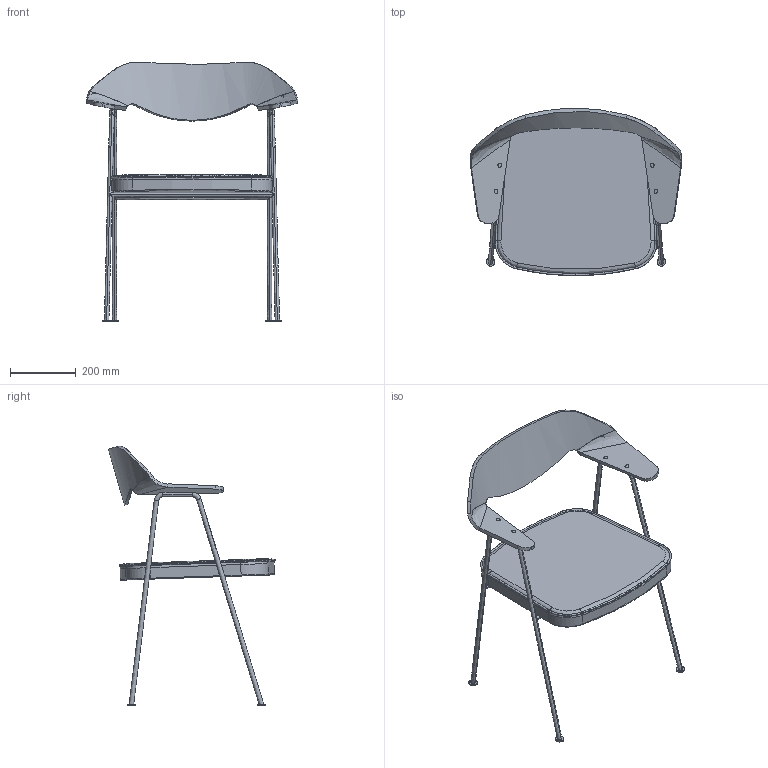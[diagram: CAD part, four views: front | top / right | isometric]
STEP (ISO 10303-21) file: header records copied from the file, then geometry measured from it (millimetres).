
FILE_DESCRIPTION(/* description */ (''),/* implementation_level */ '2;1');
FILE_NAME(/* name */ '675 CHAIR - PROPERTY OF CASE FURNITURE LTD - ONLY FOR VISUALISATION',/* time_stamp */ '2019-09-30T12:03:21+01:00',/* author */ (''),/* organization */ (''),/* preprocessor_version */ 'ST-DEVELOPER v14',/* originating_system */ '',/* authorisation */ '');
FILE_SCHEMA (('CONFIG_CONTROL_DESIGN'));
Length unit declared in the file: millimetre
Products named in the file (1): Document
Bounding box: 642.38 x 507.73 x 789.55 mm (x, y, z)
Volume: 568418.3 mm3; surface area: 968313 mm2
Topology: 8 solids, 40 shells, 198 faces, 513 edges, 344 vertices
Faces by surface type: bspline 159, plane 39
Entity records: 12994 total; most frequent: CARTESIAN_POINT 10131, ORIENTED_EDGE 880, EDGE_CURVE 513, VERTEX_POINT 344, B_SPLINE_CURVE_WITH_KNOTS 216, EDGE_LOOP 202, ADVANCED_FACE 198, FACE_OUTER_BOUND 198
